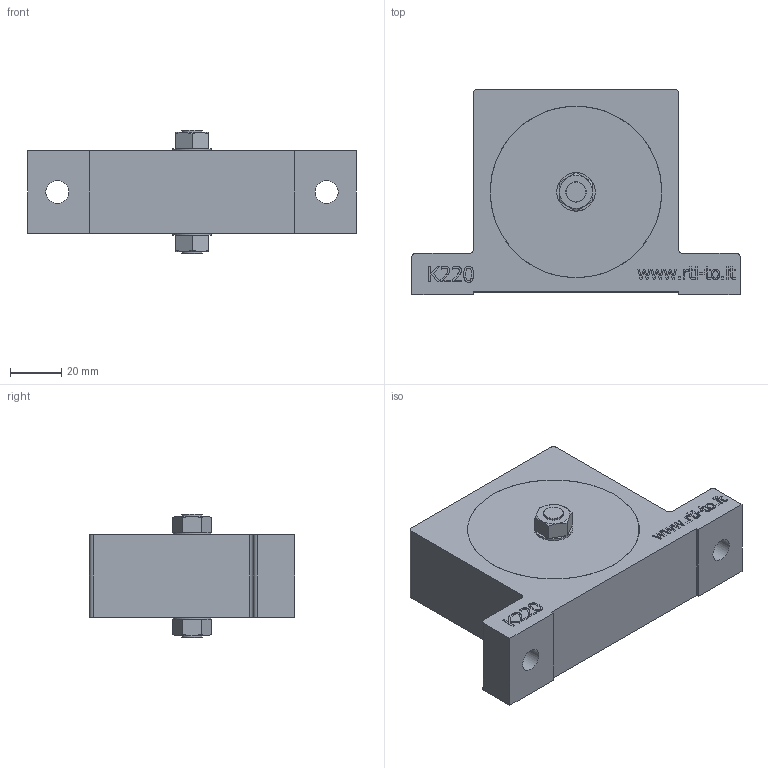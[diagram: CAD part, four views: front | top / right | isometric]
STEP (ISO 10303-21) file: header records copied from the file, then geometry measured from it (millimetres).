
FILE_DESCRIPTION((''),'2;1');
FILE_NAME('D:\UFFICIO TECNICO\PROGETTI PER PROTOTIPI\VIBRATORE - K220\VIBR. K220.stp','2015-09-14T13:15:21',('Piero'),(''),'Autodesk Inventor 2011','Autodesk Inventor 2011','');
FILE_SCHEMA(('CONFIG_CONTROL_DESIGN'));
Length unit declared in the file: millimetre
Products named in the file (1): K220
Bounding box: 128 x 80 x 48 mm (x, y, z)
Volume: 148421.6 mm3; surface area: 43725.7 mm2
Topology: 1 solids, 1 shells, 306 faces, 792 edges, 519 vertices
Faces by surface type: plane 218, bspline 61, cylinder 21, cone 6
Full cylindrical faces by diameter (mm): 2.5 x1, 6 x1, 8 x2, 9 x2, 11.445 x2, 15 x2, 62 x1, 66.9 x2, 67 x2
Entity records: 9502 total; most frequent: CARTESIAN_POINT 2482, ORIENTED_EDGE 1528, DIRECTION 1186, EDGE_CURVE 764, VECTOR 562, LINE 562, VERTEX_POINT 512, EDGE_LOOP 364
